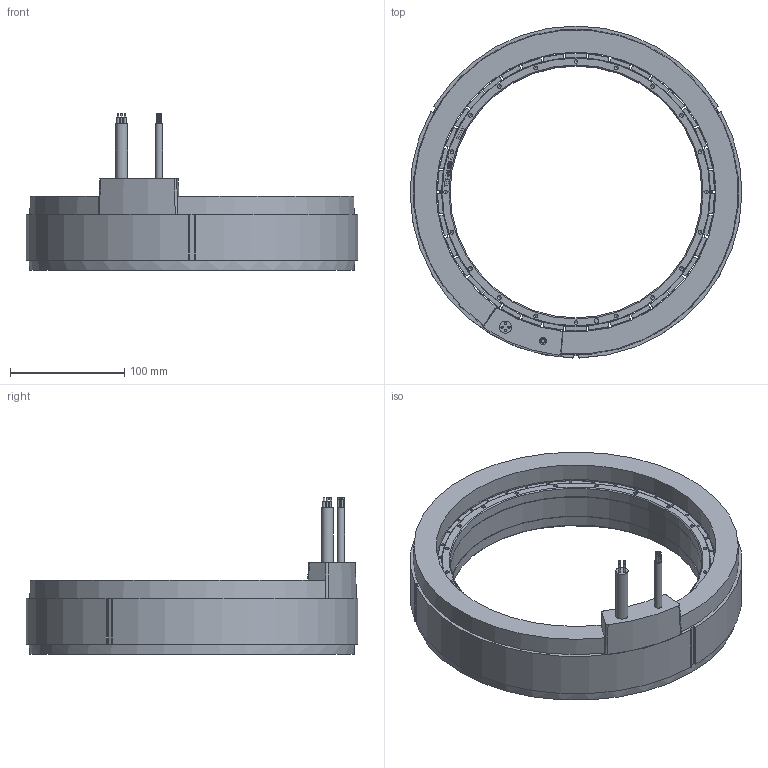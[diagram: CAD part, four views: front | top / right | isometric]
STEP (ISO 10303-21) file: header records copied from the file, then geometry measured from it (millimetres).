
FILE_DESCRIPTION(/* description */ ('QTL-290-65 KIT'),/* implementation_level */ '2;1');
FILE_NAME(/* name */ 'Torque_QTL_290_65_N_Kit_CAD_190320',/* time_stamp */ '2019-03-21T08:42:38+01:00',/* author */ ('MTE'),/* organization */ ('TECNOTION'),/* preprocessor_version */ 'ST-DEVELOPER v16.7',/* originating_system */ 'DEX',/* authorisation */ $);
FILE_SCHEMA (('AP203_CONFIGURATION_CONTROLLED_3D_DESIGN_OF_MECHANICAL_PARTS_AND_ASSEMBLIES_MIM_LF { 1 0 10303 203 3 1 4 }','AUTOMOTIVE_DESIGN {1 0 10303 214 3 1 1}'));
Length unit declared in the file: millimetre
Products named in the file (2): Torque_QTL_290_65_N_Kit_CAD_190320
Assembly tree (1 placements, depth 2):
  Torque_QTL_290_65_N_Kit_CAD_190320
    Torque_QTL_290_65_N_Kit_CAD_190320
Bounding box: 289.98 x 289.97 x 137 mm (x, y, z)
Volume: 2162303 mm3; surface area: 396955.1 mm2
Topology: 43 solids, 43 shells, 1380 faces, 3134 edges, 1581 vertices
Faces by surface type: cylinder 544, plane 471, sphere 304, cone 45, bspline 16
Full cylindrical faces by diameter (mm): 1.35 x6, 1.5 x6, 1.598 x4, 2 x4, 3.242 x40, 4 x2, 6.4 x2, 10 x1, 10.6 x1, 220 x2, 221 x1, 233.9 x1, 244.4 x1, 245.1 x1, 284.5 x1
Entity records: 37387 total; most frequent: CARTESIAN_POINT 6859, DIRECTION 6078, ORIENTED_EDGE 5264, EDGE_CURVE 2632, AXIS2_PLACEMENT_3D 2466, FACE_BOUND 1587, EDGE_LOOP 1547, VERTEX_POINT 1539
